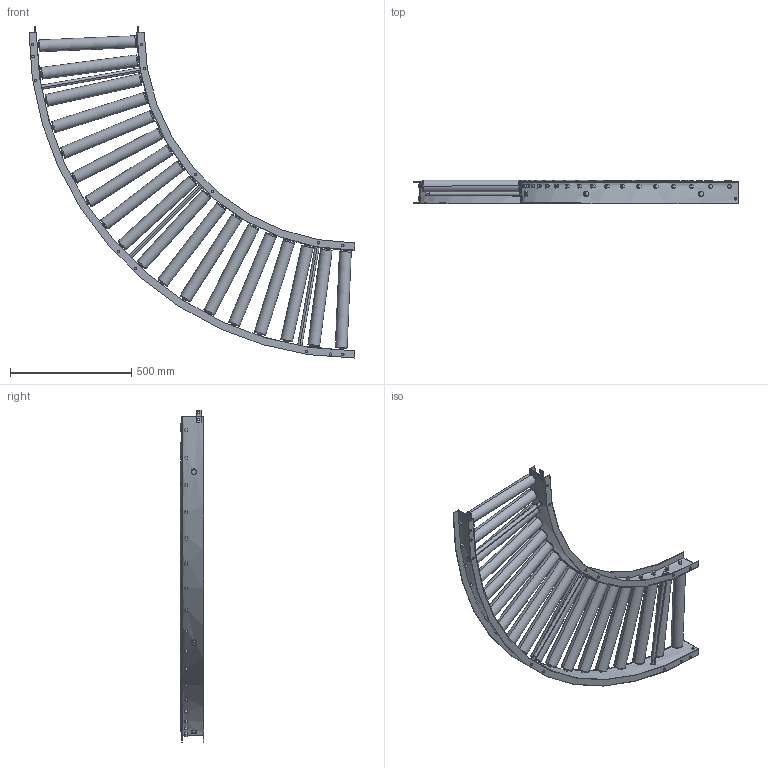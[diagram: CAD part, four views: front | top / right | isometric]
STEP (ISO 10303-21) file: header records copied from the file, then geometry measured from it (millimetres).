
FILE_DESCRIPTION (( 'STEP AP203' ), '1' );
FILE_NAME ('RB-4816HE_C.step', '2024-03-15T02:37:15', ( '' ), ( '' ), 'SwSTEP 2.0', 'SolidWorks 2023', '' );
FILE_SCHEMA (( 'CONFIG_CONTROL_DESIGN' ));
Length unit declared in the file: millimetre
Products named in the file (1): RB-4816HE_C
Bounding box: 1345 x 95.8 x 1370.08 mm (x, y, z)
Volume: 14806301 mm3; surface area: 2343840 mm2
Topology: 37 solids, 37 shells, 964 faces, 2328 edges, 1516 vertices
Faces by surface type: plane 648, cylinder 208, torus 72, cone 36
Entity records: 29957 total; most frequent: CARTESIAN_POINT 7749, ORIENTED_EDGE 4656, DIRECTION 4390, EDGE_CURVE 2328, AXIS2_PLACEMENT_3D 1521, VERTEX_POINT 1516, LINE 1348, VECTOR 1348
